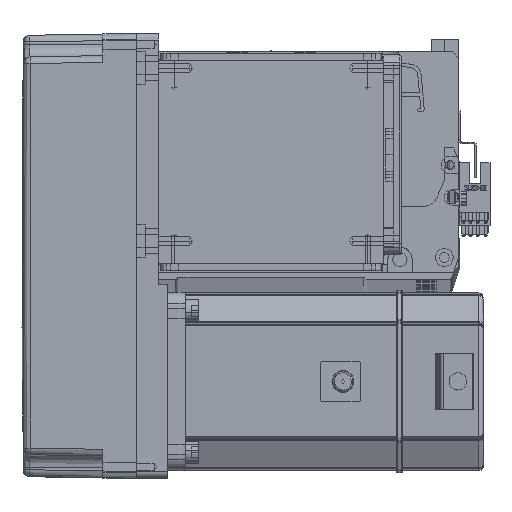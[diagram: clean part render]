
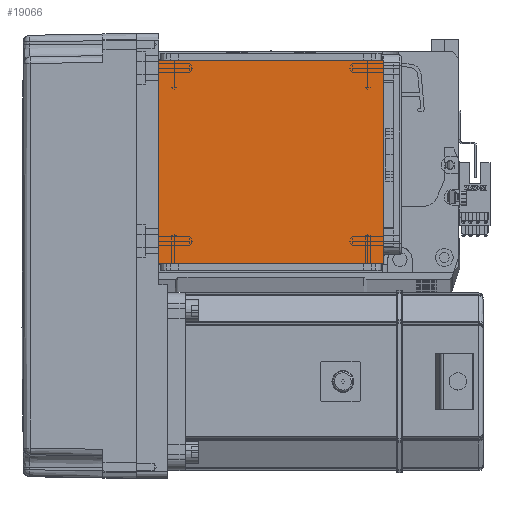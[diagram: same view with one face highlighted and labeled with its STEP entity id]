
A CAD part, top view. The second image highlights one B-rep face of the part: STEP entity #19066.
In plain terms, the highlighted planar face has unit normal (0, 0, 1).
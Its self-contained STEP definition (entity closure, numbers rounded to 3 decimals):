
#119 = CARTESIAN_POINT ( 'NONE',  ( 50.5, 111.5, 115. ) ) ;
#766 = LINE ( 'NONE', #34633, #20542 ) ;
#5213 = DIRECTION ( 'NONE',  ( 1., 0., 0. ) ) ;
#6134 = EDGE_CURVE ( 'NONE', #37539, #48477, #23850, .T. ) ;
#6541 = EDGE_CURVE ( 'NONE', #30256, #39146, #37803, .T. ) ;
#10914 = CARTESIAN_POINT ( 'NONE',  ( -50.5, 20., 115. ) ) ;
#13475 = CARTESIAN_POINT ( 'NONE',  ( -50.5, 111.5, 115. ) ) ;
#13804 = CARTESIAN_POINT ( 'NONE',  ( -70.004, 20., 115. ) ) ;
#15372 = ORIENTED_EDGE ( 'NONE', *, *, #66125, .T. ) ;
#17949 = VECTOR ( 'NONE', #24251, 1000. ) ;
#19066 = ADVANCED_FACE ( 'NONE', ( #43419 ), #25311, .T. ) ;
#20205 = CARTESIAN_POINT ( 'NONE',  ( -70.004, 111.5, 115. ) ) ;
#20542 = VECTOR ( 'NONE', #31196, 1000. ) ;
#23850 = LINE ( 'NONE', #20205, #24649 ) ;
#24251 = DIRECTION ( 'NONE',  ( -1., 0., 0. ) ) ;
#24649 = VECTOR ( 'NONE', #5213, 1000. ) ;
#25311 = PLANE ( 'NONE',  #30074 ) ;
#30074 = AXIS2_PLACEMENT_3D ( 'NONE', #30176, #46085, #62173 ) ;
#30176 = CARTESIAN_POINT ( 'NONE',  ( 0., 0., 115. ) ) ;
#30256 = VERTEX_POINT ( 'NONE', #64291 ) ;
#30323 = LINE ( 'NONE', #50217, #68175 ) ;
#31196 = DIRECTION ( 'NONE',  ( 0., -1., 0. ) ) ;
#34626 = EDGE_LOOP ( 'NONE', ( #64379, #15372, #67500, #61310 ) ) ;
#34633 = CARTESIAN_POINT ( 'NONE',  ( -50.5, 122., 115. ) ) ;
#37539 = VERTEX_POINT ( 'NONE', #13475 ) ;
#37803 = LINE ( 'NONE', #13804, #17949 ) ;
#39146 = VERTEX_POINT ( 'NONE', #10914 ) ;
#43419 = FACE_OUTER_BOUND ( 'NONE', #34626, .T. ) ;
#46085 = DIRECTION ( 'NONE',  ( 0., 0., 1. ) ) ;
#48477 = VERTEX_POINT ( 'NONE', #119 ) ;
#50217 = CARTESIAN_POINT ( 'NONE',  ( 50.5, 122., 115. ) ) ;
#59717 = EDGE_CURVE ( 'NONE', #30256, #48477, #30323, .T. ) ;
#61310 = ORIENTED_EDGE ( 'NONE', *, *, #59717, .T. ) ;
#62173 = DIRECTION ( 'NONE',  ( 1., 0., 0. ) ) ;
#64291 = CARTESIAN_POINT ( 'NONE',  ( 50.5, 20., 115. ) ) ;
#64379 = ORIENTED_EDGE ( 'NONE', *, *, #6134, .F. ) ;
#65780 = DIRECTION ( 'NONE',  ( 0., 1., 0. ) ) ;
#66125 = EDGE_CURVE ( 'NONE', #37539, #39146, #766, .T. ) ;
#67500 = ORIENTED_EDGE ( 'NONE', *, *, #6541, .F. ) ;
#68175 = VECTOR ( 'NONE', #65780, 1000. ) ;
